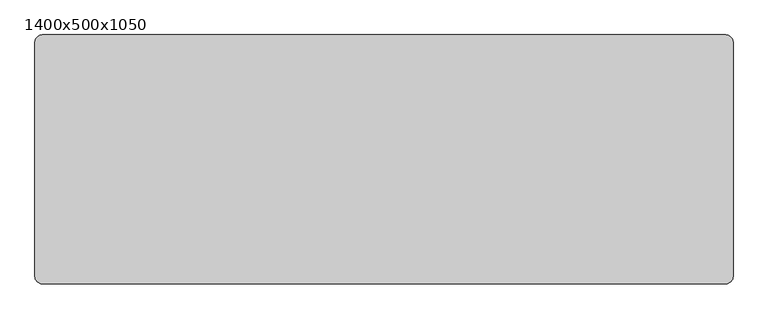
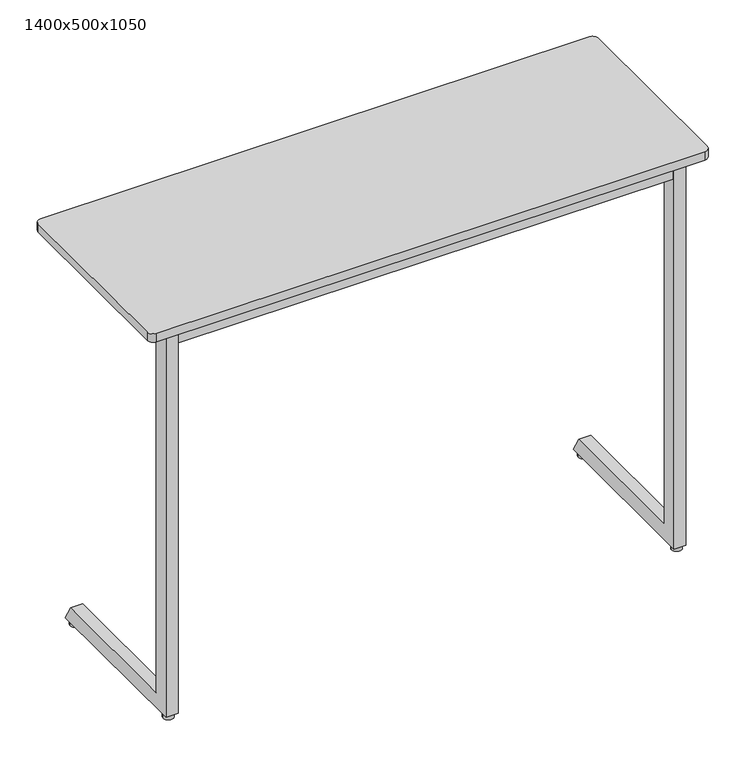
"""IFC4 building model written with IfcOpenShell, lengths in millimetres: furniture geometry, Trivia Light : 1400x500x1050."""

from ifc_helpers import new_model, si_unit, point, frame, frame_2d, origin, origin_with_axes, place, context, project, spatial, polyline, circle_curve, trimmed, segment, composite_curve, outline, extrude, source, transform, mapped, element, save


def furniture_1400x500x1050_dd9b71a5(model_context):
    return source(origin(), model_context, "Body", "SweptSolid", [
        extrude(outline(polyline([(434.5100173, 1028.0), (419.9996059, 996.4981092), (54.0, 996.4977978), (54.0, 1028.0), (434.5100173, 1028.0)])), frame((-564.7535601, 0.0, 0.0), z_axis=(1.0, 0.0, 0.0), x_axis=(0.0, 1.0, 0.0)), (0.0, 0.0, 1.0), 30.0),
        extrude(outline(polyline([(1023.7997437, -567.7502136), (1000.730957, -567.7502136), (1000.730957, -599.8065042), (1005.0394353, -611.6439509), (1002.2203574, -612.6700113), (997.730957, -600.3354852), (997.730957, -564.7502136), (1023.7997437, -564.7502136), (1023.7997437, -567.7502136)])), frame((0.0, 215.0, 0.0), z_axis=(0.0, 1.0, 0.0), x_axis=(0.0, 0.0, 1.0)), (0.0, 0.0, 1.0), 30.0),
        extrude(outline(polyline([(1023.7997437, 567.7535601), (1023.7997437, 564.7535601), (997.730957, 564.7535601), (997.730957, 600.3388316), (1002.2203574, 612.6733577), (1005.0394353, 611.6472973), (1000.730957, 599.8098507), (1000.730957, 567.7535601), (1023.7997437, 567.7535601)])), frame((0.0, 215.0, 0.0), z_axis=(0.0, 1.0, 0.0), x_axis=(0.0, 0.0, 1.0)), (0.0, 0.0, 1.0), 30.0),
        extrude(outline(composite_curve([segment(trimmed(circle_curve(frame_2d((-635.0, 35.0)), 13.0), [point((-648.0, 35.0))], [point((-622.0, 35.0))], False, "CARTESIAN"), True, "CONTINUOUS"), segment(trimmed(circle_curve(frame_2d((-635.0, 35.0)), 13.0), [point((-622.0, 35.0))], [point((-648.0, 35.0))], False, "CARTESIAN"), True, "CONTINUOUS")], self_intersect=False)), origin_with_axes(), (0.0, 0.0, 1.0), 13.0905762),
        extrude(outline(composite_curve([segment(trimmed(circle_curve(frame_2d((635.0, 35.0)), 13.0), [point((622.0, 35.0))], [point((648.0, 35.0))], False, "CARTESIAN"), True, "CONTINUOUS"), segment(trimmed(circle_curve(frame_2d((635.0, 35.0)), 13.0), [point((648.0, 35.0))], [point((622.0, 35.0))], False, "CARTESIAN"), True, "CONTINUOUS")], self_intersect=False)), origin_with_axes(), (0.0, 0.0, 1.0), 13.0905762),
        extrude(outline(composite_curve([segment(trimmed(circle_curve(frame_2d((635.0, 437.5)), 13.0), [point((622.0, 437.5))], [point((648.0, 437.5))], False, "CARTESIAN"), True, "CONTINUOUS"), segment(trimmed(circle_curve(frame_2d((635.0, 437.5)), 13.0), [point((648.0, 437.5))], [point((622.0, 437.5))], False, "CARTESIAN"), True, "CONTINUOUS")], self_intersect=False)), origin_with_axes(), (0.0, 0.0, 1.0), 13.0905762),
        extrude(outline(composite_curve([segment(trimmed(circle_curve(frame_2d((-635.0, 437.5)), 13.0), [point((-648.0, 437.5))], [point((-622.0, 437.5))], False, "CARTESIAN"), True, "CONTINUOUS"), segment(trimmed(circle_curve(frame_2d((-635.0, 437.5)), 13.0), [point((-622.0, 437.5))], [point((-648.0, 437.5))], False, "CARTESIAN"), True, "CONTINUOUS")], self_intersect=False)), origin_with_axes(), (0.0, 0.0, 1.0), 13.0905762),
        extrude(outline(polyline([(434.5100173, 1028.0), (419.9996059, 996.4981092), (54.0, 996.4977978), (54.0, 1028.0), (434.5100173, 1028.0)])), frame((534.7535601, 0.0, 0.0), z_axis=(1.0, 0.0, 0.0), x_axis=(0.0, 1.0, 0.0)), (0.0, 0.0, 1.0), 30.0),
        extrude(outline(composite_curve([segment(trimmed(circle_curve(frame_2d((685.0, 485.0)), 15.0), [point((685.0, 500.0))], [point((700.0, 485.0))], False, "CARTESIAN"), True, "CONTINUOUS"), segment(polyline([(700.0, 485.0), (700.0, 15.0)]), True, "CONTINUOUS"), segment(trimmed(circle_curve(frame_2d((685.0, 15.0)), 15.0), [point((700.0, 15.0))], [point((685.0, 0.0))], False, "CARTESIAN"), True, "CONTINUOUS"), segment(polyline([(685.0, 0.0), (-685.0, 0.0)]), True, "CONTINUOUS"), segment(trimmed(circle_curve(frame_2d((-685.0, 15.0)), 15.0), [point((-685.0, 0.0))], [point((-700.0, 15.0))], False, "CARTESIAN"), True, "CONTINUOUS"), segment(polyline([(-700.0, 15.0), (-700.0, 485.0)]), True, "CONTINUOUS"), segment(trimmed(circle_curve(frame_2d((-685.0, 485.0)), 15.0), [point((-700.0, 485.0))], [point((-685.0, 500.0))], False, "CARTESIAN"), True, "CONTINUOUS"), segment(polyline([(-685.0, 500.0), (685.0, 500.0)]), True, "CONTINUOUS")], self_intersect=False)), frame((0.0, 0.0, 1028.0), z_axis=(0.0, 0.0, 1.0), x_axis=(1.0, 0.0, 0.0)), (0.0, 0.0, 1.0), 22.0),
        extrude(outline(polyline([(619.7534307, 54.0), (619.7534307, 24.0), (-619.7534307, 24.0), (-619.7534307, 54.0), (619.7534307, 54.0)])), frame((0.0, 0.0, 986.0), z_axis=(0.0, 0.0, 1.0), x_axis=(1.0, 0.0, 0.0)), (0.0, 0.0, 1.0), 42.0),
        extrude(outline(polyline([(62.0, 51.5905762), (432.1448423, 51.5905762), (454.8944033, 11.5905762), (20.0, 11.5905762), (20.0, 1028.0), (62.0, 1028.0), (62.0, 51.5905762)])), frame((-649.7535601, 0.0, 0.0), z_axis=(1.0, 0.0, 0.0), x_axis=(0.0, 1.0, 0.0)), (0.0, 0.0, 1.0), 30.0001294),
        extrude(outline(polyline([(62.0, 51.5905762), (432.1448423, 51.5905762), (454.8944033, 11.5905762), (20.0, 11.5905762), (20.0, 1028.0), (62.0, 1028.0), (62.0, 51.5905762)])), frame((619.7534307, 0.0, 0.0), z_axis=(1.0, 0.0, 0.0), x_axis=(0.0, 1.0, 0.0)), (0.0, 0.0, 1.0), 30.0001294),
    ])


if __name__ == "__main__":
    model = new_model("IFC4")
    model_context = context("Model", 3, world=origin())
    ifc_project = project(units=[si_unit("LENGTHUNIT", "METRE", prefix="MILLI")], contexts=[model_context])
    site = spatial("IfcSite", under=ifc_project)
    building = spatial("IfcBuilding", under=site)
    placement = place(None, origin())
    furniture_1400x500x1050_shape = furniture_1400x500x1050_dd9b71a5(model_context)
    element("IfcFurniture", 1, ObjectType="Trivia Light : 1400x500x1050", at=placement, inside=building, context=model_context, shape_type="MappedRepresentation", body=[
        mapped(furniture_1400x500x1050_shape, transform((0.0, 0.0, 0.0), x_axis=(1.0, 0.0, 0.0), y_axis=(0.0, 1.0, 0.0), z_axis=(0.0, 0.0, 1.0))),
    ])
    save(model, "model.ifc")
